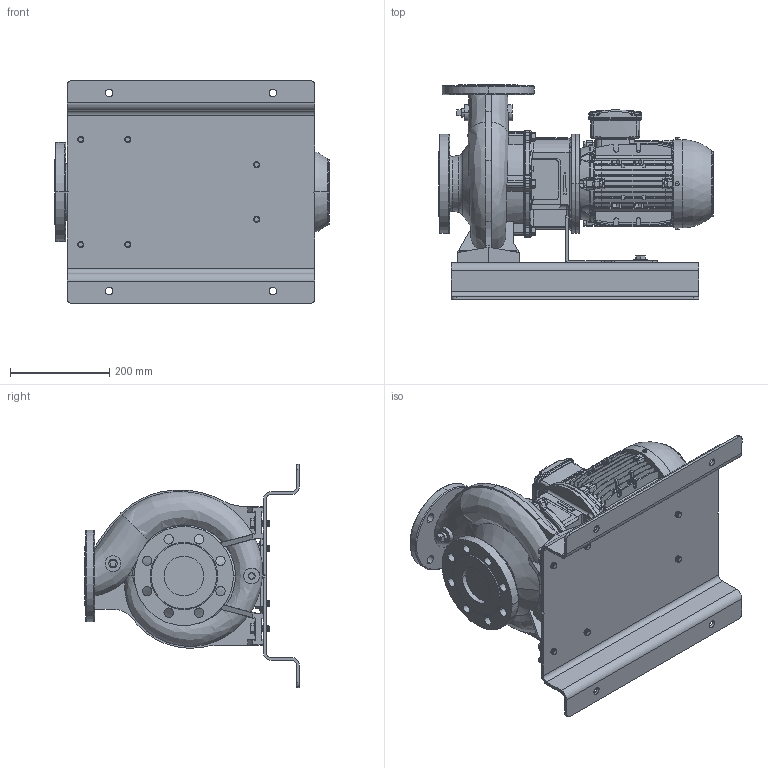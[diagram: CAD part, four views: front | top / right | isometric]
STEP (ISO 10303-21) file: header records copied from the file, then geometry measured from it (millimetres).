
FILE_DESCRIPTION (( 'STEP AP214' ), '1' );
FILE_NAME ('GSD4 65-160_1.1 & 1.5_(90SL)_W21_BP.STEP', '2024-08-14T23:51:58', ( '' ), ( '' ), 'SwSTEP 2.0', 'SolidWorks 2019', '' );
FILE_SCHEMA (( 'AUTOMOTIVE_DESIGN' ));
Length unit declared in the file: millimetre
Products named in the file (14): Parametric bolt and washer_SFT-A299B; 90S_L ALIE3_W21T_B5; Parametric bolt and washer_SFT-A295B; Parametric Flat Washer_M12; N4S6 GSDA-461 F1-1832911-00; CGSD1-4153; GSD4 65-160_1.1 & 1.5_(90SL)_W21_BP; Parametric bolt_SFT-A299B; 65-160-90S_L_______; Parametric bolt_SFT-A295B
Assembly tree (22 placements, depth 3):
  GSD4 65-160_1.1 & 1.5_(90SL)_W21_BP
    65-160-90S_L_______
    90S_L ALIE3_W21T_B5
    N4S6 GSDA-461 F1-1832911-00
    CGSD1-4153
    Parametric bolt and washer_SFT-A299B
      Parametric bolt_SFT-A299B
      Parametric Flat Washer_M12
    Parametric bolt and washer_SFT-A299B
      Parametric bolt_SFT-A299B
      Parametric Flat Washer_M12
    Parametric bolt and washer_SFT-A299B
      Parametric bolt_SFT-A299B
      Parametric Flat Washer_M12
    Parametric bolt and washer_SFT-A299B
      Parametric bolt_SFT-A299B
      Parametric Flat Washer_M12
    Parametric bolt and washer_SFT-A295B
      Parametric bolt_SFT-A295B
      Parametric Flat Washer_M12
    Parametric bolt and washer_SFT-A295B
      Parametric bolt_SFT-A295B
      Parametric Flat Washer_M12
Bounding box: 554 x 432.78 x 450 mm (x, y, z)
Volume: 16757960.4 mm3; surface area: 1791507 mm2
Topology: 19 solids, 23 shells, 3700 faces, 9720 edges, 6245 vertices
Faces by surface type: plane 1919, cylinder 1030, torus 297, bspline 251, cone 181, sphere 22
Entity records: 187039 total; most frequent: CARTESIAN_POINT 103365, ORIENTED_EDGE 18166, DIRECTION 16168, EDGE_CURVE 9083, VERTEX_POINT 5860, AXIS2_PLACEMENT_3D 5439, VECTOR 5290, LINE 5290
